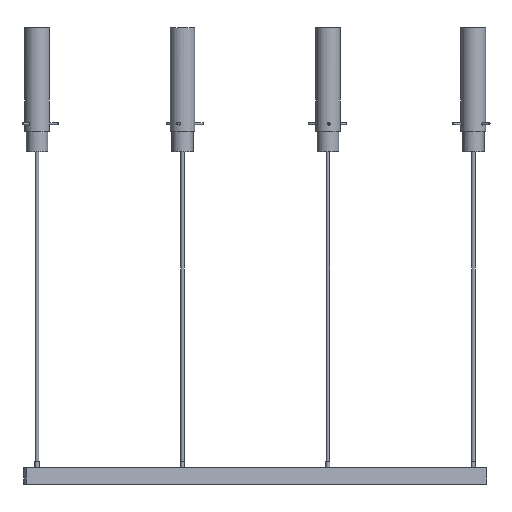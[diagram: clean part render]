
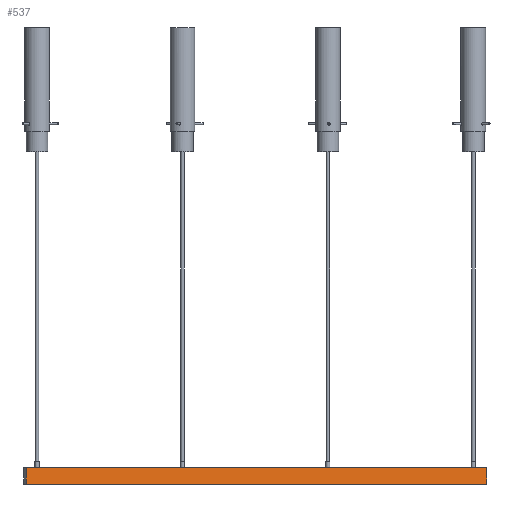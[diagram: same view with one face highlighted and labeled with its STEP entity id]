
A CAD part, front view. The second image highlights one B-rep face of the part: STEP entity #537.
In plain terms, the highlighted planar face has unit normal (0.246, -0.969, 0) as drawn and (0, -1, 0) by its records, which use the part's own axes.
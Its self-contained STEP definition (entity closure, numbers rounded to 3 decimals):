
#94=LINE('',#905,#106);
#95=LINE('',#908,#107);
#96=LINE('',#910,#108);
#97=LINE('',#911,#109);
#106=VECTOR('',#736,10.);
#107=VECTOR('',#739,10.);
#108=VECTOR('',#740,10.);
#109=VECTOR('',#741,10.);
#120=PLANE('',#632);
#178=FACE_OUTER_BOUND('',#220,.T.);
#220=EDGE_LOOP('',(#400,#401,#402,#403));
#309=VERTEX_POINT('',#899);
#311=VERTEX_POINT('',#903);
#312=VERTEX_POINT('',#907);
#313=VERTEX_POINT('',#909);
#351=EDGE_CURVE('',#309,#311,#94,.T.);
#352=EDGE_CURVE('',#309,#312,#95,.T.);
#353=EDGE_CURVE('',#313,#311,#96,.T.);
#354=EDGE_CURVE('',#312,#313,#97,.T.);
#400=ORIENTED_EDGE('',*,*,#352,.F.);
#401=ORIENTED_EDGE('',*,*,#351,.T.);
#402=ORIENTED_EDGE('',*,*,#353,.F.);
#403=ORIENTED_EDGE('',*,*,#354,.F.);
#537=ADVANCED_FACE('',(#178),#120,.T.);
#632=AXIS2_PLACEMENT_3D('',#906,#737,#738);
#736=DIRECTION('',(0.,0.,1.));
#737=DIRECTION('center_axis',(0.,-1.,0.));
#738=DIRECTION('ref_axis',(1.,0.,0.));
#739=DIRECTION('',(-1.,0.,0.));
#740=DIRECTION('',(1.,0.,0.));
#741=DIRECTION('',(0.,0.,1.));
#899=CARTESIAN_POINT('',(575.,-12.5,0.));
#903=CARTESIAN_POINT('',(575.,-12.5,40.));
#905=CARTESIAN_POINT('',(575.,-12.5,0.));
#906=CARTESIAN_POINT('Origin',(-575.,-12.5,0.));
#907=CARTESIAN_POINT('',(-575.,-12.5,0.));
#908=CARTESIAN_POINT('',(575.,-12.5,0.));
#909=CARTESIAN_POINT('',(-575.,-12.5,40.));
#910=CARTESIAN_POINT('',(575.,-12.5,40.));
#911=CARTESIAN_POINT('',(-575.,-12.5,0.));
